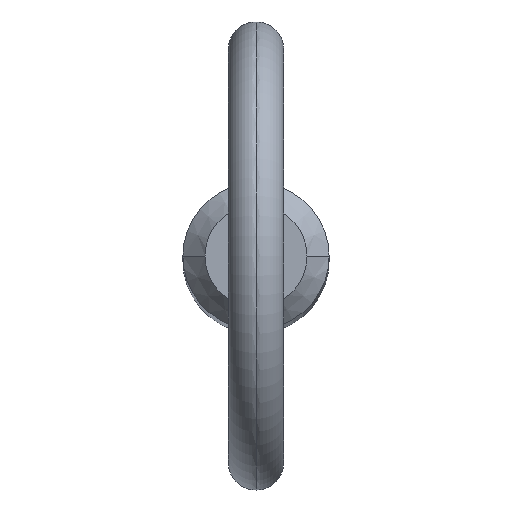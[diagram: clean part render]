
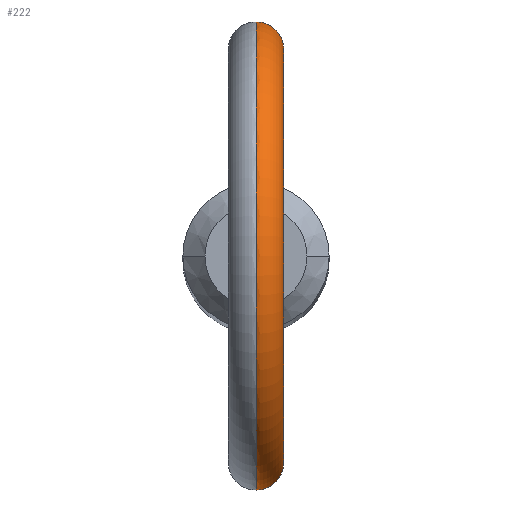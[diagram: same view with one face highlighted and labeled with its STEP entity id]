
A CAD part, top view. The second image highlights one B-rep face of the part: STEP entity #222.
In plain terms, the highlighted toroidal (fillet/blend) face has major radius 11.2 mm and minor radius 1.5 mm.
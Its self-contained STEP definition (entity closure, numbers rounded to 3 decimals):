
#2 = VERTEX_POINT ( 'NONE', #391 ) ;
#10 = CARTESIAN_POINT ( 'NONE',  ( 0.404, -3.946, 120.582 ) ) ;
#11 = CARTESIAN_POINT ( 'NONE',  ( 1.447, -3.692, 118.493 ) ) ;
#14 = CARTESIAN_POINT ( 'NONE',  ( 1.503, -3.669, 118.899 ) ) ;
#31 = DIRECTION ( 'NONE',  ( 1., 0., 0. ) ) ;
#35 = CARTESIAN_POINT ( 'NONE',  ( 0., 3.965, 117.435 ) ) ;
#39 = AXIS2_PLACEMENT_3D ( 'NONE', #397, #31, #324 ) ;
#53 = CARTESIAN_POINT ( 'NONE',  ( 1.404, -3.708, 119.501 ) ) ;
#74 = CARTESIAN_POINT ( 'NONE',  ( 1.026, 3.831, 117.813 ) ) ;
#75 = EDGE_CURVE ( 'NONE', #319, #249, #301, .T. ) ;
#78 = CARTESIAN_POINT ( 'NONE',  ( 1.185, 3.786, 119.96 ) ) ;
#88 = CARTESIAN_POINT ( 'NONE',  ( 0.102, -3.965, 120.647 ) ) ;
#91 = CARTESIAN_POINT ( 'NONE',  ( 0., -3.965, 117.435 ) ) ;
#95 = CARTESIAN_POINT ( 'NONE',  ( 0.77, -3.894, 120.4 ) ) ;
#96 = CIRCLE ( 'NONE', #39, 12.7 ) ;
#120 = CARTESIAN_POINT ( 'NONE',  ( 0.769, 3.894, 120.401 ) ) ;
#133 = CARTESIAN_POINT ( 'NONE',  ( 1.346, -3.73, 118.208 ) ) ;
#156 = CARTESIAN_POINT ( 'NONE',  ( 1.503, 3.669, 118.898 ) ) ;
#157 = CARTESIAN_POINT ( 'NONE',  ( 1.447, 3.692, 118.493 ) ) ;
#162 = CARTESIAN_POINT ( 'NONE',  ( 0.691, 3.905, 117.589 ) ) ;
#175 = CARTESIAN_POINT ( 'NONE',  ( 0., 3.965, 120.647 ) ) ;
#176 = CARTESIAN_POINT ( 'NONE',  ( 1.237, -3.77, 118.031 ) ) ;
#180 = CARTESIAN_POINT ( 'NONE',  ( 1.479, -3.679, 119.207 ) ) ;
#192 = DIRECTION ( 'NONE',  ( 1., 0., 0. ) ) ;
#197 = CARTESIAN_POINT ( 'NONE',  ( 0.411, 3.948, 120.591 ) ) ;
#199 = B_SPLINE_CURVE_WITH_KNOTS ( 'NONE', 3,
 ( #35, #475, #201, #162, #245, #239, #74, #435, #203, #157, #400, #506, #156, #322, #507, #360, #78, #362, #120, #197, #440, #513 ),
 .UNSPECIFIED., .F., .F.,
 ( 4, 2, 2, 2, 2, 2, 2, 2, 2, 2, 4 ),
 ( 0.001, 0.001, 0.002, 0.002, 0.003, 0.003, 0.003, 0.004, 0.004, 0.005, 0.006 ),
 .UNSPECIFIED. ) ;
#201 = CARTESIAN_POINT ( 'NONE',  ( 0.41, 3.948, 117.474 ) ) ;
#203 = CARTESIAN_POINT ( 'NONE',  ( 1.344, 3.731, 118.203 ) ) ;
#204 = CARTESIAN_POINT ( 'NONE',  ( 0., -3.965, 120.647 ) ) ;
#215 = CARTESIAN_POINT ( 'NONE',  ( 0.782, -3.888, 117.637 ) ) ;
#217 = EDGE_CURVE ( 'NONE', #2, #319, #199, .T. ) ;
#219 = CARTESIAN_POINT ( 'NONE',  ( 1.291, -3.75, 119.783 ) ) ;
#220 = TOROIDAL_SURFACE ( 'NONE', #325, 11.2, 1.5 ) ;
#222 = ADVANCED_FACE ( 'NONE', ( #455 ), #220, .T. ) ;
#223 = EDGE_CURVE ( 'NONE', #2, #401, #96, .T. ) ;
#239 = CARTESIAN_POINT ( 'NONE',  ( 0.949, 3.851, 117.749 ) ) ;
#245 = CARTESIAN_POINT ( 'NONE',  ( 0.782, 3.888, 117.637 ) ) ;
#246 = CARTESIAN_POINT ( 'NONE',  ( 0., 0., 129.5 ) ) ;
#249 = VERTEX_POINT ( 'NONE', #204 ) ;
#258 = CARTESIAN_POINT ( 'NONE',  ( 0.409, -3.948, 117.474 ) ) ;
#262 = ORIENTED_EDGE ( 'NONE', *, *, #361, .F. ) ;
#266 = CARTESIAN_POINT ( 'NONE',  ( 0.925, -3.858, 120.268 ) ) ;
#281 = EDGE_LOOP ( 'NONE', ( #375, #353, #262, #359 ) ) ;
#295 = CARTESIAN_POINT ( 'NONE',  ( 1.434, -3.697, 119.405 ) ) ;
#297 = CARTESIAN_POINT ( 'NONE',  ( 0., -3.965, 117.435 ) ) ;
#301 = CIRCLE ( 'NONE', #430, 9.7 ) ;
#311 = DIRECTION ( 'NONE',  ( 0., 0., -1. ) ) ;
#316 = B_SPLINE_CURVE_WITH_KNOTS ( 'NONE', 3,
 ( #479, #88, #485, #10, #459, #95, #266, #453, #219, #53, #295, #180, #342, #14, #378, #490, #11, #133, #176, #458, #451, #215, #379, #258, #337, #297 ),
 .UNSPECIFIED., .F., .F.,
 ( 4, 2, 2, 2, 2, 2, 2, 2, 2, 2, 2, 2, 4 ),
 ( 0.004, 0.005, 0.005, 0.005, 0.006, 0.006, 0.007, 0.007, 0.007, 0.008, 0.008, 0.008, 0.009 ),
 .UNSPECIFIED. ) ;
#319 = VERTEX_POINT ( 'NONE', #175 ) ;
#322 = CARTESIAN_POINT ( 'NONE',  ( 1.488, 3.675, 119.205 ) ) ;
#324 = DIRECTION ( 'NONE',  ( 0., 0., -1. ) ) ;
#325 = AXIS2_PLACEMENT_3D ( 'NONE', #246, #442, #395 ) ;
#337 = CARTESIAN_POINT ( 'NONE',  ( 0.205, -3.965, 117.435 ) ) ;
#342 = CARTESIAN_POINT ( 'NONE',  ( 1.493, -3.673, 119.104 ) ) ;
#353 = ORIENTED_EDGE ( 'NONE', *, *, #223, .T. ) ;
#359 = ORIENTED_EDGE ( 'NONE', *, *, #75, .F. ) ;
#360 = CARTESIAN_POINT ( 'NONE',  ( 1.291, 3.75, 119.784 ) ) ;
#361 = EDGE_CURVE ( 'NONE', #249, #401, #316, .T. ) ;
#362 = CARTESIAN_POINT ( 'NONE',  ( 0.927, 3.858, 120.267 ) ) ;
#375 = ORIENTED_EDGE ( 'NONE', *, *, #217, .F. ) ;
#378 = CARTESIAN_POINT ( 'NONE',  ( 1.499, -3.671, 118.797 ) ) ;
#379 = CARTESIAN_POINT ( 'NONE',  ( 0.693, -3.905, 117.59 ) ) ;
#391 = CARTESIAN_POINT ( 'NONE',  ( 0., 3.965, 117.435 ) ) ;
#395 = DIRECTION ( 'NONE',  ( 0., 0., -1. ) ) ;
#397 = CARTESIAN_POINT ( 'NONE',  ( 0., 0., 129.5 ) ) ;
#400 = CARTESIAN_POINT ( 'NONE',  ( 1.47, 3.682, 118.592 ) ) ;
#401 = VERTEX_POINT ( 'NONE', #91 ) ;
#429 = CARTESIAN_POINT ( 'NONE',  ( 0., 0., 129.5 ) ) ;
#430 = AXIS2_PLACEMENT_3D ( 'NONE', #429, #192, #311 ) ;
#435 = CARTESIAN_POINT ( 'NONE',  ( 1.236, 3.77, 118.029 ) ) ;
#440 = CARTESIAN_POINT ( 'NONE',  ( 0.206, 3.965, 120.647 ) ) ;
#442 = DIRECTION ( 'NONE',  ( 1., 0., 0. ) ) ;
#451 = CARTESIAN_POINT ( 'NONE',  ( 0.949, -3.851, 117.749 ) ) ;
#453 = CARTESIAN_POINT ( 'NONE',  ( 1.186, -3.786, 119.959 ) ) ;
#455 = FACE_OUTER_BOUND ( 'NONE', #281, .T. ) ;
#458 = CARTESIAN_POINT ( 'NONE',  ( 1.028, -3.83, 117.815 ) ) ;
#459 = CARTESIAN_POINT ( 'NONE',  ( 0.498, -3.935, 120.544 ) ) ;
#475 = CARTESIAN_POINT ( 'NONE',  ( 0.204, 3.965, 117.435 ) ) ;
#479 = CARTESIAN_POINT ( 'NONE',  ( 0., -3.965, 120.647 ) ) ;
#485 = CARTESIAN_POINT ( 'NONE',  ( 0.205, -3.961, 120.634 ) ) ;
#490 = CARTESIAN_POINT ( 'NONE',  ( 1.471, -3.682, 118.594 ) ) ;
#506 = CARTESIAN_POINT ( 'NONE',  ( 1.499, 3.671, 118.794 ) ) ;
#507 = CARTESIAN_POINT ( 'NONE',  ( 1.441, 3.695, 119.408 ) ) ;
#513 = CARTESIAN_POINT ( 'NONE',  ( 0., 3.965, 120.647 ) ) ;
